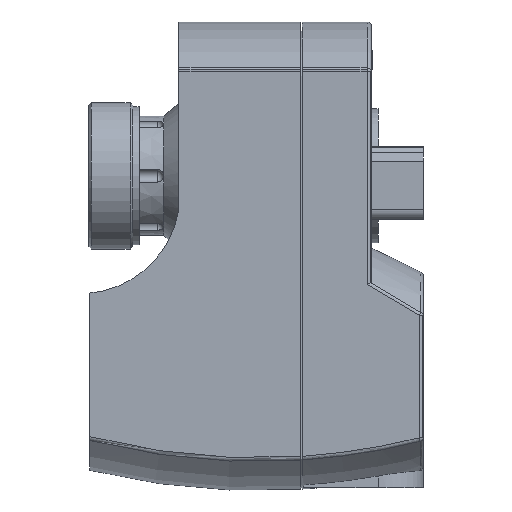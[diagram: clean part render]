
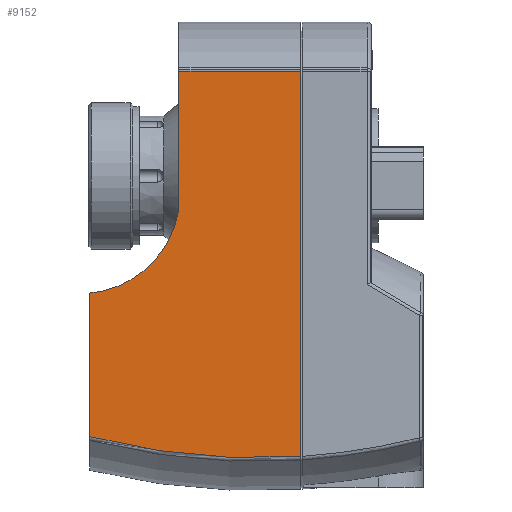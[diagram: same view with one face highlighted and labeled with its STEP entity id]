
A CAD part, left-side view. The second image highlights one B-rep face of the part: STEP entity #9152.
In plain terms, the highlighted planar face has unit normal (-1, 0, 0).
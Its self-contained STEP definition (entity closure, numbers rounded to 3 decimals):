
#8655=CARTESIAN_POINT('',(-29.,-12.973,-22.881));
#8656=VERTEX_POINT('',#8655);
#8665=CARTESIAN_POINT('',(-29.,-21.586,-7.828));
#8666=VERTEX_POINT('',#8665);
#8667=CARTESIAN_POINT('',(-29.,1.977,-4.335));
#8668=DIRECTION('',(1.0,0.,0.));
#8669=DIRECTION('',(0.,-0.628,-0.779));
#8670=AXIS2_PLACEMENT_3D('',#8667,#8668,#8669);
#8671=CIRCLE('',#8670,23.821);
#8672=EDGE_CURVE('',#8666,#8656,#8671,.T.);
#8815=CARTESIAN_POINT('',(-29.,-21.586,25.035));
#8816=VERTEX_POINT('',#8815);
#8824=CARTESIAN_POINT('',(-29.,-50.591,25.035));
#8825=VERTEX_POINT('',#8824);
#8826=CARTESIAN_POINT('',(-29.,-21.586,25.035));
#8827=DIRECTION('',(0.0,-1.0,0.0));
#8828=VECTOR('',#8827,29.005);
#8829=LINE('',#8826,#8828);
#8830=EDGE_CURVE('',#8816,#8825,#8829,.T.);
#8872=CARTESIAN_POINT('',(-29.,-50.591,-67.097));
#8873=VERTEX_POINT('',#8872);
#8874=CARTESIAN_POINT('',(-29.,-50.591,25.035));
#8875=DIRECTION('',(0.0,0.0,-1.0));
#8876=VECTOR('',#8875,92.132);
#8877=LINE('',#8874,#8876);
#8878=EDGE_CURVE('',#8825,#8873,#8877,.T.);
#9090=CARTESIAN_POINT('',(-29.,-0.3,-62.359));
#9091=VERTEX_POINT('',#9090);
#9092=CARTESIAN_POINT('',(-29.,-40.206,91.944));
#9093=DIRECTION('',(1.0,0.,0.));
#9094=DIRECTION('',(0.,0.093,-0.996));
#9095=AXIS2_PLACEMENT_3D('',#9092,#9093,#9094);
#9096=CIRCLE('',#9095,159.379);
#9097=EDGE_CURVE('',#8873,#9091,#9096,.T.);
#9120=CARTESIAN_POINT('',(-29.,8.034,-62.756));
#9121=DIRECTION('',(-1.0,0.0,0.0));
#9122=DIRECTION('',(0.0,1.0,0.0));
#9123=AXIS2_PLACEMENT_3D('',#9120,#9121,#9122);
#9124=PLANE('',#9123);
#9125=ORIENTED_EDGE('',*,*,#8830,.F.);
#9126=CARTESIAN_POINT('',(-29.,-21.586,25.035));
#9127=DIRECTION('',(0.0,0.0,-1.0));
#9128=VECTOR('',#9127,32.863);
#9129=LINE('',#9126,#9128);
#9130=EDGE_CURVE('',#8816,#8666,#9129,.T.);
#9131=ORIENTED_EDGE('',*,*,#9130,.T.);
#9132=ORIENTED_EDGE('',*,*,#8672,.T.);
#9133=CARTESIAN_POINT('',(-29.,-0.3,-28.047));
#9134=VERTEX_POINT('',#9133);
#9135=CARTESIAN_POINT('',(-29.,1.977,-4.335));
#9136=DIRECTION('',(1.0,0.,0.));
#9137=DIRECTION('',(0.,-0.628,-0.779));
#9138=AXIS2_PLACEMENT_3D('',#9135,#9136,#9137);
#9139=CIRCLE('',#9138,23.821);
#9140=EDGE_CURVE('',#8656,#9134,#9139,.T.);
#9141=ORIENTED_EDGE('',*,*,#9140,.T.);
#9142=CARTESIAN_POINT('',(-29.,-0.3,-62.359));
#9143=DIRECTION('',(0.0,0.0,1.0));
#9144=VECTOR('',#9143,34.311);
#9145=LINE('',#9142,#9144);
#9146=EDGE_CURVE('',#9091,#9134,#9145,.T.);
#9147=ORIENTED_EDGE('',*,*,#9146,.F.);
#9148=ORIENTED_EDGE('',*,*,#9097,.F.);
#9149=ORIENTED_EDGE('',*,*,#8878,.F.);
#9150=EDGE_LOOP('',(#9125,#9131,#9132,#9141,#9147,#9148,#9149));
#9151=FACE_OUTER_BOUND('',#9150,.T.);
#9152=ADVANCED_FACE('',(#9151),#9124,.T.);
